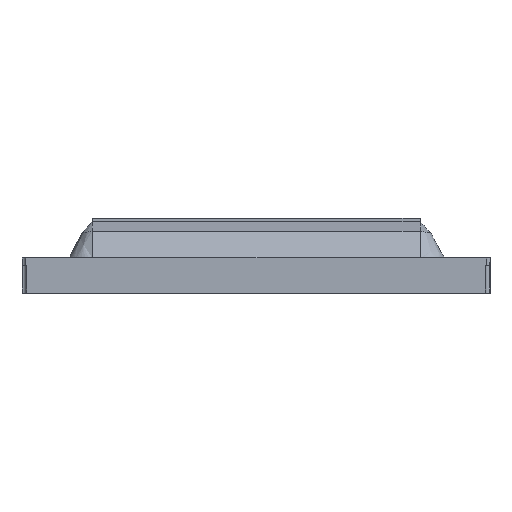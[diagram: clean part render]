
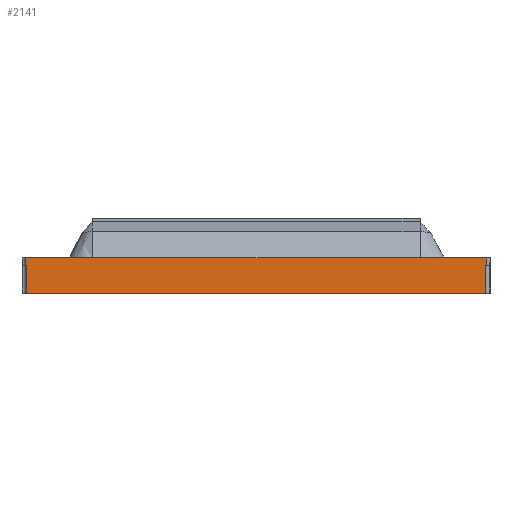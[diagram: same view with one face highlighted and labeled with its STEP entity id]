
A CAD part, top view. The second image highlights one B-rep face of the part: STEP entity #2141.
In plain terms, the highlighted planar face has unit normal (0, 0, 1).
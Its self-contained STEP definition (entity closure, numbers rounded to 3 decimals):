
#477 = VECTOR ( 'NONE', #3787, 1000. ) ;
#531 = EDGE_CURVE ( 'NONE', #1063, #1437, #6832, .T. ) ;
#584 = CARTESIAN_POINT ( 'NONE',  ( 12.575, 1.525, 8.45 ) ) ;
#599 = PLANE ( 'NONE',  #4513 ) ;
#829 = DIRECTION ( 'NONE',  ( 0., -1., 0. ) ) ;
#1063 = VERTEX_POINT ( 'NONE', #1561 ) ;
#1171 = ORIENTED_EDGE ( 'NONE', *, *, #531, .T. ) ;
#1202 = EDGE_CURVE ( 'NONE', #1063, #4821, #2066, .T. ) ;
#1291 = ORIENTED_EDGE ( 'NONE', *, *, #3229, .F. ) ;
#1437 = VERTEX_POINT ( 'NONE', #6526 ) ;
#1561 = CARTESIAN_POINT ( 'NONE',  ( -12.575, 1.525, 8.45 ) ) ;
#1636 = CARTESIAN_POINT ( 'NONE',  ( 12.625, 1.925, 8.45 ) ) ;
#1684 = ORIENTED_EDGE ( 'NONE', *, *, #3537, .F. ) ;
#1736 = DIRECTION ( 'NONE',  ( -1., 0., 0. ) ) ;
#1941 = ORIENTED_EDGE ( 'NONE', *, *, #1202, .F. ) ;
#2066 = LINE ( 'NONE', #5835, #2324 ) ;
#2141 = ADVANCED_FACE ( 'NONE', ( #5849 ), #599, .F. ) ;
#2193 = CARTESIAN_POINT ( 'NONE',  ( -12.625, 1.925, 8.45 ) ) ;
#2284 = LINE ( 'NONE', #6385, #5964 ) ;
#2324 = VECTOR ( 'NONE', #3745, 1000. ) ;
#2364 = DIRECTION ( 'NONE',  ( 0., 0., -1. ) ) ;
#2481 = EDGE_CURVE ( 'NONE', #1437, #5812, #3876, .T. ) ;
#2487 = DIRECTION ( 'NONE',  ( 1., 0., 0. ) ) ;
#2851 = DIRECTION ( 'NONE',  ( 0., -1., 0. ) ) ;
#3018 = LINE ( 'NONE', #4725, #4788 ) ;
#3113 = CARTESIAN_POINT ( 'NONE',  ( -12.625, 1.525, 8.45 ) ) ;
#3229 = EDGE_CURVE ( 'NONE', #4001, #6572, #5765, .T. ) ;
#3309 = CARTESIAN_POINT ( 'NONE',  ( -12.625, 0., 8.45 ) ) ;
#3498 = ORIENTED_EDGE ( 'NONE', *, *, #2481, .T. ) ;
#3537 = EDGE_CURVE ( 'NONE', #3936, #4527, #2284, .T. ) ;
#3565 = CARTESIAN_POINT ( 'NONE',  ( -12.825, 0., 8.45 ) ) ;
#3701 = CARTESIAN_POINT ( 'NONE',  ( 12.625, 0., 8.45 ) ) ;
#3745 = DIRECTION ( 'NONE',  ( -1., 0., 0. ) ) ;
#3787 = DIRECTION ( 'NONE',  ( 0., 1., 0. ) ) ;
#3826 = VECTOR ( 'NONE', #1736, 1000. ) ;
#3845 = CARTESIAN_POINT ( 'NONE',  ( 12.625, 1.525, 8.45 ) ) ;
#3852 = ORIENTED_EDGE ( 'NONE', *, *, #4510, .F. ) ;
#3876 = LINE ( 'NONE', #3565, #6612 ) ;
#3912 = DIRECTION ( 'NONE',  ( -1., 0., 0. ) ) ;
#3936 = VERTEX_POINT ( 'NONE', #2193 ) ;
#4001 = VERTEX_POINT ( 'NONE', #3845 ) ;
#4205 = DIRECTION ( 'NONE',  ( 0., 1., 0. ) ) ;
#4321 = ORIENTED_EDGE ( 'NONE', *, *, #4549, .F. ) ;
#4466 = CARTESIAN_POINT ( 'NONE',  ( -12.825, 1.925, 8.45 ) ) ;
#4510 = EDGE_CURVE ( 'NONE', #4821, #3936, #4856, .T. ) ;
#4513 = AXIS2_PLACEMENT_3D ( 'NONE', #4466, #2364, #3912 ) ;
#4527 = VERTEX_POINT ( 'NONE', #1636 ) ;
#4549 = EDGE_CURVE ( 'NONE', #6572, #5812, #3018, .T. ) ;
#4725 = CARTESIAN_POINT ( 'NONE',  ( 12.575, 1.525, 8.45 ) ) ;
#4788 = VECTOR ( 'NONE', #829, 1000. ) ;
#4803 = ORIENTED_EDGE ( 'NONE', *, *, #6399, .T. ) ;
#4821 = VERTEX_POINT ( 'NONE', #3113 ) ;
#4856 = LINE ( 'NONE', #3309, #477 ) ;
#5110 = EDGE_LOOP ( 'NONE', ( #1941, #1171, #3498, #4321, #1291, #4803, #1684, #3852 ) ) ;
#5285 = LINE ( 'NONE', #3701, #6406 ) ;
#5502 = CARTESIAN_POINT ( 'NONE',  ( -12.575, 1.525, 8.45 ) ) ;
#5754 = DIRECTION ( 'NONE',  ( 1., 0., 0. ) ) ;
#5765 = LINE ( 'NONE', #6626, #3826 ) ;
#5812 = VERTEX_POINT ( 'NONE', #5990 ) ;
#5835 = CARTESIAN_POINT ( 'NONE',  ( -12.625, 1.525, 8.45 ) ) ;
#5849 = FACE_OUTER_BOUND ( 'NONE', #5110, .T. ) ;
#5964 = VECTOR ( 'NONE', #2487, 1000. ) ;
#5990 = CARTESIAN_POINT ( 'NONE',  ( 12.575, 0., 8.45 ) ) ;
#6318 = VECTOR ( 'NONE', #2851, 1000. ) ;
#6385 = CARTESIAN_POINT ( 'NONE',  ( -12.825, 1.925, 8.45 ) ) ;
#6399 = EDGE_CURVE ( 'NONE', #4001, #4527, #5285, .T. ) ;
#6406 = VECTOR ( 'NONE', #4205, 1000. ) ;
#6526 = CARTESIAN_POINT ( 'NONE',  ( -12.575, 0., 8.45 ) ) ;
#6572 = VERTEX_POINT ( 'NONE', #584 ) ;
#6612 = VECTOR ( 'NONE', #5754, 1000. ) ;
#6626 = CARTESIAN_POINT ( 'NONE',  ( 12.575, 1.525, 8.45 ) ) ;
#6832 = LINE ( 'NONE', #5502, #6318 ) ;
